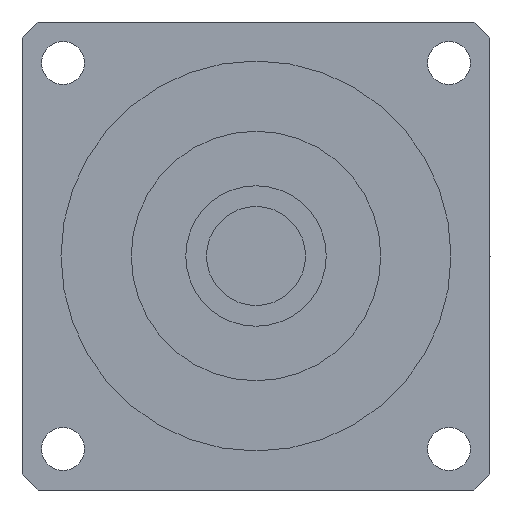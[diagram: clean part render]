
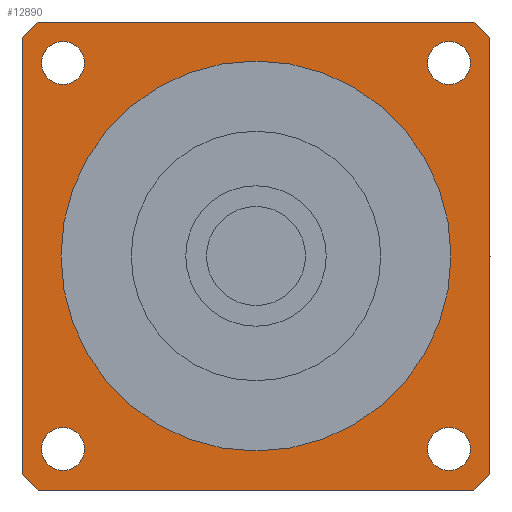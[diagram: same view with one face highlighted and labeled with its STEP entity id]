
A CAD part, left-side view. The second image highlights one B-rep face of the part: STEP entity #12890.
In plain terms, the highlighted planar face has unit normal (-1, 0, 0) as drawn and (0, 0, -1) by its records, which use the part's own axes.
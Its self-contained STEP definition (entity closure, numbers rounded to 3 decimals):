
#8750=CARTESIAN_POINT('',(-24.749,-21.999,-35.5));
#8760=VERTEX_POINT('',#8750);
#8790=CARTESIAN_POINT('',(-24.749,-24.749,-35.5));
#8800=DIRECTION('',(0.,0.,-1.));
#8810=DIRECTION('',(0.,-1.,0.));
#8820=AXIS2_PLACEMENT_3D('',#8790,#8800,#8810);
#8830=CIRCLE('',#8820,2.75);
#8840=CARTESIAN_POINT('',(-24.749,-27.499,-35.5));
#8850=VERTEX_POINT('',#8840);
#8860=EDGE_CURVE('',#8850,#8760,#8830,.T.);
#9100=CARTESIAN_POINT('',(30.,-27.946,-35.5));
#9110=VERTEX_POINT('',#9100);
#9160=CARTESIAN_POINT('',(0.,0.,
-35.5));
#9170=DIRECTION('',(0.,0.,-1.));
#9180=DIRECTION('',(0.,-1.,0.));
#9190=AXIS2_PLACEMENT_3D('',#9160,#9170,#9180);
#9200=CIRCLE('',#9190,41.);
#9210=CARTESIAN_POINT('',(27.946,-30.,-35.5));
#9220=VERTEX_POINT('',#9210);
#9230=EDGE_CURVE('',#9110,#9220,#9200,.T.);
#11400=CARTESIAN_POINT('',(0.,-25.,-35.5));
#11410=VERTEX_POINT('',#11400);
#11440=CARTESIAN_POINT('',(0.,0.,
-35.5));
#11450=DIRECTION('',(0.,0.,1.));
#11460=DIRECTION('',(1.,0.,0.));
#11470=AXIS2_PLACEMENT_3D('',#11440,#11450,#11460);
#11480=CIRCLE('',#11470,25.);
#11490=CARTESIAN_POINT('',(25.,0.,-35.5));
#11500=VERTEX_POINT('',#11490);
#11510=EDGE_CURVE('',#11410,#11500,#11480,.T.);
#11530=CARTESIAN_POINT('',(0.,25.,-35.5));
#11540=VERTEX_POINT('',#11530);
#11550=EDGE_CURVE('',#11500,#11540,#11480,.T.);
#11680=CARTESIAN_POINT('',(30.,-30.,-35.5));
#11690=DIRECTION('',(0.,0.,-1.));
#11700=DIRECTION('',(0.,-1.,0.));
#11710=AXIS2_PLACEMENT_3D('',#11680,#11690,#11700);
#11720=PLANE('',#11710);
#11730=CARTESIAN_POINT('',(-24.749,24.749,-35.5));
#11740=DIRECTION('',(0.,0.,-1.));
#11750=DIRECTION('',(-1.,0.,0.));
#11760=AXIS2_PLACEMENT_3D('',#11730,#11740,#11750);
#11770=CIRCLE('',#11760,2.75);
#11780=CARTESIAN_POINT('',(-27.499,24.749,-35.5));
#11790=VERTEX_POINT('',#11780);
#11800=CARTESIAN_POINT('',(-21.999,24.749,-35.5));
#11810=VERTEX_POINT('',#11800);
#11820=EDGE_CURVE('',#11790,#11810,#11770,.T.);
#11830=ORIENTED_EDGE('',*,*,#11820,.F.);
#11840=EDGE_CURVE('',#11810,#11790,#11770,.T.);
#11850=ORIENTED_EDGE('',*,*,#11840,.F.);
#11860=EDGE_LOOP('',(#11850,#11830));
#11870=FACE_BOUND('',#11860,.T.);
#11880=CARTESIAN_POINT('',(24.749,24.749,-35.5));
#11890=DIRECTION('',(0.,0.,-1.));
#11900=DIRECTION('',(0.,1.,0.));
#11910=AXIS2_PLACEMENT_3D('',#11880,#11890,#11900);
#11920=CIRCLE('',#11910,2.75);
#11930=CARTESIAN_POINT('',(24.749,27.499,-35.5));
#11940=VERTEX_POINT('',#11930);
#11950=CARTESIAN_POINT('',(24.749,21.999,-35.5));
#11960=VERTEX_POINT('',#11950);
#11970=EDGE_CURVE('',#11940,#11960,#11920,.T.);
#11980=ORIENTED_EDGE('',*,*,#11970,.F.);
#11990=EDGE_CURVE('',#11960,#11940,#11920,.T.);
#12000=ORIENTED_EDGE('',*,*,#11990,.F.);
#12010=EDGE_LOOP('',(#12000,#11980));
#12020=FACE_BOUND('',#12010,.T.);
#12030=CARTESIAN_POINT('',(24.749,-24.749,-35.5));
#12040=DIRECTION('',(0.,0.,-1.));
#12050=DIRECTION('',(1.,0.,0.));
#12060=AXIS2_PLACEMENT_3D('',#12030,#12040,#12050);
#12070=CIRCLE('',#12060,2.75);
#12080=CARTESIAN_POINT('',(27.499,-24.749,-35.5));
#12090=VERTEX_POINT('',#12080);
#12100=CARTESIAN_POINT('',(21.999,-24.749,-35.5));
#12110=VERTEX_POINT('',#12100);
#12120=EDGE_CURVE('',#12090,#12110,#12070,.T.);
#12130=ORIENTED_EDGE('',*,*,#12120,.F.);
#12140=EDGE_CURVE('',#12110,#12090,#12070,.T.);
#12150=ORIENTED_EDGE('',*,*,#12140,.F.);
#12160=EDGE_LOOP('',(#12150,#12130));
#12170=FACE_BOUND('',#12160,.T.);
#12180=EDGE_CURVE('',#11540,#11410,#11480,.T.);
#12190=ORIENTED_EDGE('',*,*,#12180,.T.);
#12200=ORIENTED_EDGE('',*,*,#11550,.T.);
#12210=ORIENTED_EDGE('',*,*,#11510,.T.);
#12220=EDGE_LOOP('',(#12210,#12200,#12190));
#12230=FACE_BOUND('',#12220,.T.);
#12240=CARTESIAN_POINT('',(30.,30.,-35.5));
#12250=DIRECTION('',(0.,-1.,0.));
#12260=VECTOR('',#12250,1000.);
#12270=LINE('',#12240,#12260);
#12280=CARTESIAN_POINT('',(30.,27.946,-35.5));
#12290=VERTEX_POINT('',#12280);
#12300=EDGE_CURVE('',#12290,#9110,#12270,.T.);
#12310=ORIENTED_EDGE('',*,*,#12300,.T.);
#12320=CARTESIAN_POINT('',(0.,0.,
-35.5));
#12330=DIRECTION('',(0.,0.,-1.));
#12340=DIRECTION('',(0.,-1.,0.));
#12350=AXIS2_PLACEMENT_3D('',#12320,#12330,#12340);
#12360=CIRCLE('',#12350,41.);
#12370=CARTESIAN_POINT('',(27.946,30.,-35.5));
#12380=VERTEX_POINT('',#12370);
#12390=EDGE_CURVE('',#12380,#12290,#12360,.T.);
#12400=ORIENTED_EDGE('',*,*,#12390,.T.);
#12410=CARTESIAN_POINT('',(-30.,30.,-35.5));
#12420=DIRECTION('',(1.,0.,0.));
#12430=VECTOR('',#12420,1000.);
#12440=LINE('',#12410,#12430);
#12450=CARTESIAN_POINT('',(-27.946,30.,-35.5));
#12460=VERTEX_POINT('',#12450);
#12470=EDGE_CURVE('',#12460,#12380,#12440,.T.);
#12480=ORIENTED_EDGE('',*,*,#12470,.T.);
#12490=CARTESIAN_POINT('',(0.,0.,
-35.5));
#12500=DIRECTION('',(0.,0.,-1.));
#12510=DIRECTION('',(0.,-1.,0.));
#12520=AXIS2_PLACEMENT_3D('',#12490,#12500,#12510);
#12530=CIRCLE('',#12520,41.);
#12540=CARTESIAN_POINT('',(-30.,27.946,-35.5));
#12550=VERTEX_POINT('',#12540);
#12560=EDGE_CURVE('',#12550,#12460,#12530,.T.);
#12570=ORIENTED_EDGE('',*,*,#12560,.T.);
#12580=CARTESIAN_POINT('',(-30.,-30.,-35.5));
#12590=DIRECTION('',(0.,1.,0.));
#12600=VECTOR('',#12590,1000.);
#12610=LINE('',#12580,#12600);
#12620=CARTESIAN_POINT('',(-30.,-27.946,-35.5));
#12630=VERTEX_POINT('',#12620);
#12640=EDGE_CURVE('',#12630,#12550,#12610,.T.);
#12650=ORIENTED_EDGE('',*,*,#12640,.T.);
#12660=CARTESIAN_POINT('',(0.,0.,
-35.5));
#12670=DIRECTION('',(0.,0.,-1.));
#12680=DIRECTION('',(0.,-1.,0.));
#12690=AXIS2_PLACEMENT_3D('',#12660,#12670,#12680);
#12700=CIRCLE('',#12690,41.);
#12710=CARTESIAN_POINT('',(-27.946,-30.,-35.5));
#12720=VERTEX_POINT('',#12710);
#12730=EDGE_CURVE('',#12720,#12630,#12700,.T.);
#12740=ORIENTED_EDGE('',*,*,#12730,.T.);
#12750=CARTESIAN_POINT('',(30.,-30.,-35.5));
#12760=DIRECTION('',(-1.,0.,0.));
#12770=VECTOR('',#12760,1000.);
#12780=LINE('',#12750,#12770);
#12790=EDGE_CURVE('',#9220,#12720,#12780,.T.);
#12800=ORIENTED_EDGE('',*,*,#12790,.T.);
#12810=ORIENTED_EDGE('',*,*,#9230,.T.);
#12820=EDGE_LOOP('',(#12810,#12800,#12740,#12650,#12570,#12480,#12400,
#12310));
#12830=FACE_OUTER_BOUND('',#12820,.T.);
#12840=ORIENTED_EDGE('',*,*,#8860,.F.);
#12850=EDGE_CURVE('',#8760,#8850,#8830,.T.);
#12860=ORIENTED_EDGE('',*,*,#12850,.F.);
#12870=EDGE_LOOP('',(#12860,#12840));
#12880=FACE_BOUND('',#12870,.T.);
#12890=ADVANCED_FACE('',(#11870,#12020,#12170,#12230,#12830,#12880),
#11720,.T.);
